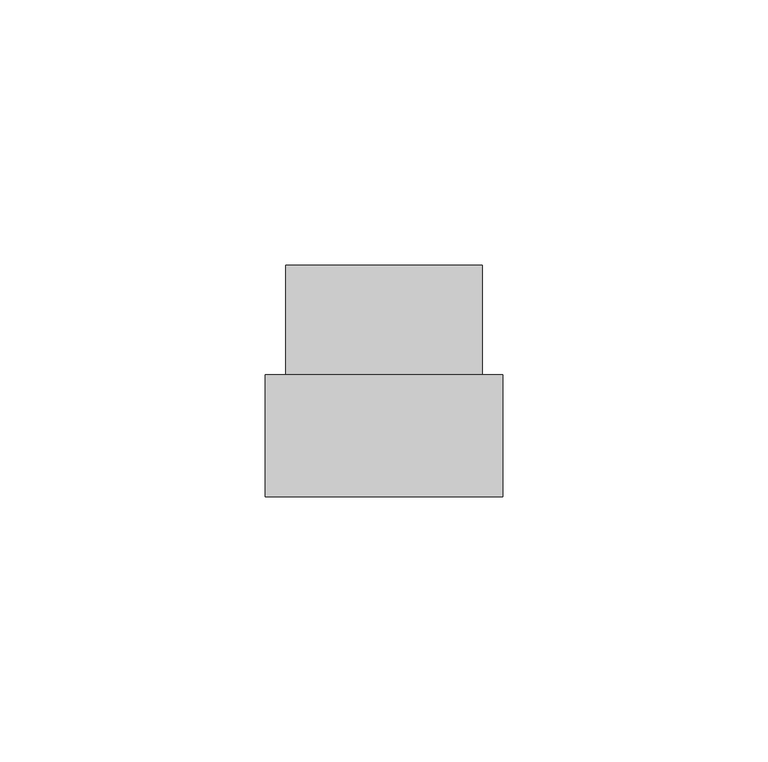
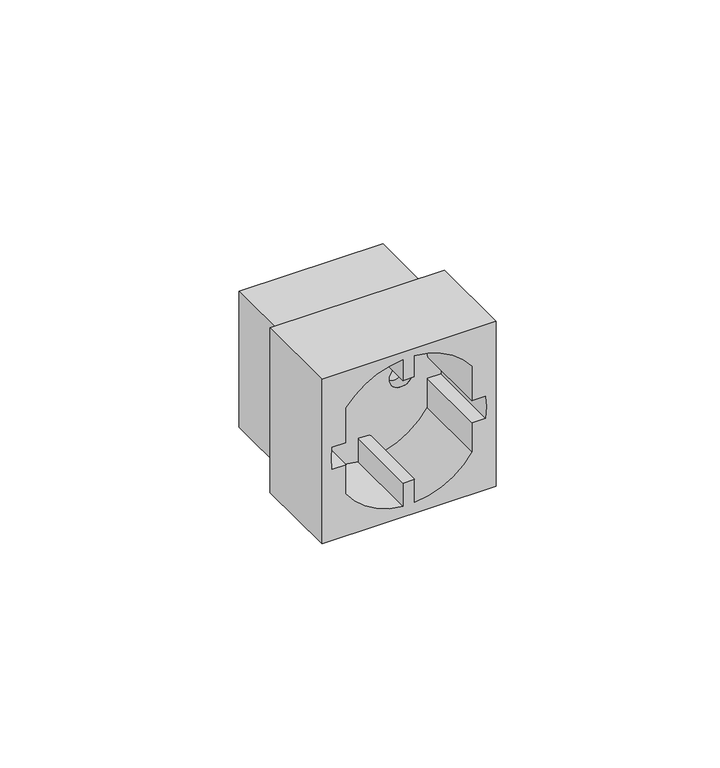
"""IFC4 building model written with IfcOpenShell, lengths in millimetres: proxy geometry."""

from ifc_helpers import new_model, si_unit, frame, origin, place, context, project, spatial, polyline, circle_curve, source, transform, mapped, element, save
from ifc_brep_helpers import plane_surface, revolved_surface, advanced_brep


def electrical_fixtures_08d7c8de(model_context):
    return source(origin(), model_context, "Body", "AdvancedBrep", [
        advanced_brep(
        [(22.45, -43.7, -22.45), (22.45, -43.7, 22.45), (-22.45, -43.7, 22.45), (-22.45, -43.7, -22.45), (-19.7737199, -43.7, 3.0), (-16.2525449, -43.7, 3.0), (-16.2525449, -43.7, 12.4056761), (-1.5019291, -43.7, 20.3909348), (-1.5019291, -43.7, 14.6935255), (1.5019291, -43.7, 14.6935255), (1.5019291, -43.7, 20.3909348), (16.2525449, -43.7, 12.4056761), (16.2525449, -43.7, 3.0), (19.7737199, -43.7, 3.0), (19.7737199, -43.7, -3.0), (16.2525449, -43.7, -3.0), (16.2525449, -43.7, -10.9056761), (1.5019291, -43.7, -19.5146918), (1.5019291, -43.7, -13.1935255), (-1.5019291, -43.7, -13.1935255), (-1.5019291, -43.7, -19.5146918), (-16.2525449, -43.7, -10.9056761), (-16.2525449, -43.7, -3.0), (-19.7737199, -43.7, -3.0), (22.45, -20.7, -22.45), (-22.45, -20.7, -22.45), (-22.45, -20.7, 22.45), (22.45, -20.7, 22.45), (-6.5, -20.7, 0.0), (-12.5, -20.7, 0.0), (12.5, -20.7, 0.0), (6.5, -20.7, 0.0), (-19.7737199, -23.7, 3.0), (-19.7737199, -23.7, -3.0), (-16.2525449, -23.7, -3.0), (-16.2525449, -23.7, -10.9056761), (-1.5019291, -23.7, -19.5146918), (-1.5019291, -23.7, -13.1935255), (1.5019291, -23.7, -13.1935255), (1.5019291, -23.7, -19.5146918), (16.2525449, -23.7, -10.9056761), (16.2525449, -23.7, -3.0), (19.7737199, -23.7, -3.0), (19.7737199, -23.7, 3.0), (16.2525449, -23.7, 3.0), (16.2525449, -23.7, 12.4056761), (1.5019291, -23.7, 20.3909348), (1.5019291, -23.7, 14.6935255), (-1.5019291, -23.7, 14.6935255), (-1.5019291, -23.7, 20.3909348), (-16.2525449, -23.7, 12.4056761), (-16.2525449, -23.7, 3.0), (-12.5, -23.7, 0.0), (-6.5, -23.7, 0.0), (6.5, -23.7, 0.0), (12.5, -23.7, 0.0)],
        [
            (0, 1),
            (1, 2),
            (2, 3),
            (3, 0),
            (4, 5),
            (5, 6),
            (6, 7, circle_curve(frame((0.0, -43.7, 0.0), z_axis=(0.0, 1.0, 0.0), x_axis=(1.0, 0.0, 0.0)), 20.4461736)),
            (7, 8),
            (8, 9),
            (9, 10),
            (10, 11, circle_curve(frame((0.0, -43.7, 0.0), z_axis=(0.0, 1.0, 0.0), x_axis=(1.0, 0.0, 0.0)), 20.4461736)),
            (11, 12),
            (12, 13),
            (13, 14, circle_curve(frame((0.0, -43.7, 0.0), z_axis=(0.0, 1.0, 0.0), x_axis=(1.0, 0.0, 0.0)), 20.0)),
            (14, 15),
            (15, 16),
            (16, 17, circle_curve(frame((0.0, -43.7, 0.0), z_axis=(0.0, 1.0, 0.0), x_axis=(1.0, 0.0, 0.0)), 19.5724037)),
            (17, 18),
            (18, 19),
            (19, 20),
            (20, 21, circle_curve(frame((0.0, -43.7, 0.0), z_axis=(0.0, 1.0, 0.0), x_axis=(1.0, 0.0, 0.0)), 19.5724037)),
            (21, 22),
            (22, 23),
            (23, 4, circle_curve(frame((0.0, -43.7, 0.0), z_axis=(0.0, 1.0, 0.0), x_axis=(1.0, 0.0, 0.0)), 20.0)),
            (24, 25),
            (25, 26),
            (26, 27),
            (27, 24),
            (28, 29, circle_curve(frame((-9.5, -20.7, 0.0), z_axis=(0.0, -1.0, 0.0), x_axis=(1.0, 0.0, 0.0)), 3.0)),
            (29, 28, circle_curve(frame((-9.5, -20.7, 0.0), z_axis=(0.0, -1.0, 0.0), x_axis=(1.0, 0.0, 0.0)), 3.0)),
            (30, 31, circle_curve(frame((9.5, -20.7, 0.0), z_axis=(0.0, -1.0, 0.0), x_axis=(1.0, 0.0, 0.0)), 3.0)),
            (31, 30, circle_curve(frame((9.5, -20.7, 0.0), z_axis=(0.0, -1.0, 0.0), x_axis=(1.0, 0.0, 0.0)), 3.0)),
            (3, 25),
            (24, 0),
            (2, 26),
            (1, 27),
            (32, 33, circle_curve(frame((0.0, -23.7, 0.0), z_axis=(0.0, -1.0, 0.0), x_axis=(1.0, 0.0, 0.0)), 20.0)),
            (33, 34),
            (34, 35),
            (35, 36, circle_curve(frame((0.0, -23.7, 0.0), z_axis=(0.0, -1.0, 0.0), x_axis=(1.0, 0.0, 0.0)), 19.5724037)),
            (36, 37),
            (37, 38),
            (38, 39),
            (39, 40, circle_curve(frame((0.0, -23.7, 0.0), z_axis=(0.0, -1.0, 0.0), x_axis=(1.0, 0.0, 0.0)), 19.5724037)),
            (40, 41),
            (41, 42),
            (42, 43, circle_curve(frame((0.0, -23.7, 0.0), z_axis=(0.0, -1.0, 0.0), x_axis=(1.0, 0.0, 0.0)), 20.0)),
            (43, 44),
            (44, 45),
            (45, 46, circle_curve(frame((0.0, -23.7, 0.0), z_axis=(0.0, -1.0, 0.0), x_axis=(1.0, 0.0, 0.0)), 20.4461736)),
            (46, 47),
            (47, 48),
            (48, 49),
            (49, 50, circle_curve(frame((0.0, -23.7, 0.0), z_axis=(0.0, -1.0, 0.0), x_axis=(1.0, 0.0, 0.0)), 20.4461736)),
            (50, 51),
            (51, 32),
            (52, 53, circle_curve(frame((-9.5, -23.7, 0.0), z_axis=(0.0, 1.0, 0.0), x_axis=(1.0, 0.0, 0.0)), 3.0)),
            (53, 52, circle_curve(frame((-9.5, -23.7, 0.0), z_axis=(0.0, 1.0, 0.0), x_axis=(1.0, 0.0, 0.0)), 3.0)),
            (54, 55, circle_curve(frame((9.5, -23.7, 0.0), z_axis=(0.0, 1.0, 0.0), x_axis=(1.0, 0.0, 0.0)), 3.0)),
            (55, 54, circle_curve(frame((9.5, -23.7, 0.0), z_axis=(0.0, 1.0, 0.0), x_axis=(1.0, 0.0, 0.0)), 3.0)),
            (51, 5),
            (4, 32),
            (50, 6),
            (49, 7),
            (48, 8),
            (47, 9),
            (46, 10),
            (45, 11),
            (44, 12),
            (43, 13),
            (42, 14),
            (41, 15),
            (40, 16),
            (39, 17),
            (38, 18),
            (37, 19),
            (36, 20),
            (35, 21),
            (34, 22),
            (33, 23),
            (52, 29),
            (28, 53),
            (54, 31),
            (30, 55),
        ],
        [
            plane_surface(frame((-26.0, -43.7, -22.45), z_axis=(0.0, -1.0, 0.0), x_axis=(1.0, 0.0, 0.0))),
            plane_surface(frame((-26.0, -20.7, -22.45), z_axis=(0.0, 1.0, 0.0), x_axis=(-1.0, 0.0, 0.0))),
            plane_surface(frame((22.45, -20.7, -22.45), z_axis=(0.0, 0.0, -1.0), x_axis=(0.0, -1.0, 0.0))),
            plane_surface(frame((-22.45, -20.7, -22.45), z_axis=(-1.0, 0.0, 0.0), x_axis=(0.0, -1.0, 0.0))),
            plane_surface(frame((-22.45, -20.7, 22.45), z_axis=(0.0, 0.0, 1.0), x_axis=(0.0, -1.0, 0.0))),
            plane_surface(frame((22.45, -20.7, 22.45), z_axis=(1.0, 0.0, 0.0), x_axis=(0.0, -1.0, 0.0))),
            plane_surface(frame((-19.7737199, -23.7, 3.0), z_axis=(0.0, -1.0, 0.0), x_axis=(1.0, 0.0, 0.0))),
            plane_surface(frame((-19.7737199, -23.7, 3.0), z_axis=(0.0, 0.0, -1.0), x_axis=(0.0, -1.0, 0.0))),
            plane_surface(frame((-16.2525449, -23.7, 3.0), z_axis=(1.0, 0.0, 0.0), x_axis=(0.0, -1.0, 0.0))),
            revolved_surface(polyline([(20.4461736, -23.7, 0.0), (20.4461736, -43.7, 0.0)]), (0.0, -43.7, 0.0), (0.0, 1.0, 0.0)),
            plane_surface(frame((-1.5019291, -23.7, 20.3909348), z_axis=(-1.0, 0.0, 0.0), x_axis=(0.0, -1.0, 0.0))),
            plane_surface(frame((-1.5019291, -23.7, 14.6935255), z_axis=(0.0, 0.0, -1.0), x_axis=(0.0, -1.0, 0.0))),
            plane_surface(frame((1.5019291, -23.7, 14.6935255), z_axis=(1.0, 0.0, 0.0), x_axis=(0.0, -1.0, 0.0))),
            plane_surface(frame((16.2525449, -23.7, 12.4056761), z_axis=(-1.0, 0.0, 0.0), x_axis=(0.0, -1.0, 0.0))),
            plane_surface(frame((16.2525449, -23.7, 3.0), z_axis=(0.0, 0.0, -1.0), x_axis=(0.0, -1.0, 0.0))),
            revolved_surface(polyline([(20.0, -23.7, 0.0), (20.0, -43.7, 0.0)]), (0.0, -43.7, 0.0), (0.0, 1.0, 0.0)),
            plane_surface(frame((19.7737199, -23.7, -3.0), z_axis=(0.0, 0.0, 1.0), x_axis=(0.0, -1.0, 0.0))),
            plane_surface(frame((16.2525449, -23.7, -3.0), z_axis=(-1.0, 0.0, 0.0), x_axis=(0.0, -1.0, 0.0))),
            revolved_surface(polyline([(19.5724037, -23.7, 0.0), (19.5724037, -43.7, 0.0)]), (0.0, -43.7, 0.0), (0.0, 1.0, 0.0)),
            plane_surface(frame((1.5019291, -23.7, -19.5146918), z_axis=(1.0, 0.0, 0.0), x_axis=(0.0, -1.0, 0.0))),
            plane_surface(frame((1.5019291, -23.7, -13.1935255), z_axis=(0.0, 0.0, 1.0), x_axis=(0.0, -1.0, 0.0))),
            plane_surface(frame((-1.5019291, -23.7, -13.1935255), z_axis=(-1.0, 0.0, 0.0), x_axis=(0.0, -1.0, 0.0))),
            plane_surface(frame((-16.2525449, -23.7, -10.9056761), z_axis=(1.0, 0.0, 0.0), x_axis=(0.0, -1.0, 0.0))),
            plane_surface(frame((-16.2525449, -23.7, -3.0), z_axis=(0.0, 0.0, 1.0), x_axis=(0.0, -1.0, 0.0))),
            revolved_surface(polyline([(-6.5, -20.7, 0.0), (-6.5, -23.7, 0.0)]), (-9.5, -23.7, 0.0), (0.0, 1.0, 0.0)),
            revolved_surface(polyline([(12.5, -20.7, 0.0), (12.5, -23.7, 0.0)]), (9.5, -34.7, 0.0), (0.0, 1.0, 0.0)),
        ],
        [
            (0, [[1, 2, 3, 4], [5, 6, 7, 8, 9, 10, 11, 12, 13, 14, 15, 16, 17, 18, 19, 20, 21, 22, 23, 24]]),
            (1, [[25, 26, 27, 28], [29, 30], [31, 32]]),
            (2, [[-4, 33, -25, 34]]),
            (3, [[-3, 35, -26, -33]]),
            (4, [[-2, 36, -27, -35]]),
            (5, [[-1, -34, -28, -36]]),
            (6, [[37, 38, 39, 40, 41, 42, 43, 44, 45, 46, 47, 48, 49, 50, 51, 52, 53, 54, 55, 56], [57, 58], [59, 60]]),
            (7, [[-56, 61, -5, 62]]),
            (8, [[-55, 63, -6, -61]]),
            (9, [[-54, 64, -7, -63]]),
            (10, [[-53, 65, -8, -64]]),
            (11, [[-52, 66, -9, -65]]),
            (12, [[-51, 67, -10, -66]]),
            (9, [[-50, 68, -11, -67]]),
            (13, [[-49, 69, -12, -68]]),
            (14, [[-48, 70, -13, -69]]),
            (15, [[-47, 71, -14, -70]]),
            (16, [[-46, 72, -15, -71]]),
            (17, [[-45, 73, -16, -72]]),
            (18, [[-44, 74, -17, -73]]),
            (19, [[-43, 75, -18, -74]]),
            (20, [[-42, 76, -19, -75]]),
            (21, [[-41, 77, -20, -76]]),
            (18, [[-40, 78, -21, -77]]),
            (22, [[-39, 79, -22, -78]]),
            (23, [[-38, 80, -23, -79]]),
            (15, [[-37, -62, -24, -80]]),
            (24, [[81, -29, 82, -57]]),
            (24, [[-81, -58, -82, -30]]),
            (25, [[83, -31, 84, -59]]),
            (25, [[-83, -60, -84, -32]]),
        ],
    ),
        advanced_brep(
        [(-12.5, -3.7, 0.0), (-6.5, -3.7, 0.0), (6.5, -3.7, 0.0), (12.5, -3.7, 0.0), (-6.5, -20.7, 0.0), (-12.5, -20.7, 0.0), (12.5, -20.7, 0.0), (6.5, -20.7, 0.0), (18.5, 0.0, -18.5), (-18.5, 0.0, -18.5), (-18.5, 0.0, 18.5), (18.5, 0.0, 18.5), (18.5, -20.7, -18.5), (18.5, -20.7, 18.5), (-18.5, -20.7, 18.5), (-18.5, -20.7, -18.5)],
        [
            (0, 1, circle_curve(frame((-9.5, -3.7, 0.0), z_axis=(0.0, -1.0, 0.0), x_axis=(1.0, 0.0, 0.0)), 3.0)),
            (1, 0, circle_curve(frame((-9.5, -3.7, 0.0), z_axis=(0.0, -1.0, 0.0), x_axis=(1.0, 0.0, 0.0)), 3.0)),
            (2, 3, circle_curve(frame((9.5, -3.7, 0.0), z_axis=(0.0, -1.0, 0.0), x_axis=(1.0, 0.0, 0.0)), 3.0)),
            (3, 2, circle_curve(frame((9.5, -3.7, 0.0), z_axis=(0.0, -1.0, 0.0), x_axis=(1.0, 0.0, 0.0)), 3.0)),
            (1, 4),
            (4, 5, circle_curve(frame((-9.5, -20.7, 0.0), z_axis=(0.0, -1.0, 0.0), x_axis=(1.0, 0.0, 0.0)), 3.0)),
            (5, 0),
            (5, 4, circle_curve(frame((-9.5, -20.7, 0.0), z_axis=(0.0, -1.0, 0.0), x_axis=(1.0, 0.0, 0.0)), 3.0)),
            (3, 6),
            (6, 7, circle_curve(frame((9.5, -20.7, 0.0), z_axis=(0.0, -1.0, 0.0), x_axis=(1.0, 0.0, 0.0)), 3.0)),
            (7, 2),
            (7, 6, circle_curve(frame((9.5, -20.7, 0.0), z_axis=(0.0, -1.0, 0.0), x_axis=(1.0, 0.0, 0.0)), 3.0)),
            (8, 9),
            (9, 10),
            (10, 11),
            (11, 8),
            (12, 13),
            (13, 14),
            (14, 15),
            (15, 12),
            (8, 12),
            (15, 9),
            (14, 10),
            (13, 11),
        ],
        [
            plane_surface(frame((-6.5, -3.7, 0.0), z_axis=(0.0, -1.0, 0.0), x_axis=(0.0, 0.0, -1.0))),
            revolved_surface(polyline([(-6.5, -3.6999999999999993, 0.0), (-6.5, -20.7, 0.0)]), (-9.5, -23.7, 0.0), (0.0, 1.0, 0.0)),
            revolved_surface(polyline([(12.5, -3.6999999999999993, 0.0), (12.5, -20.7, 0.0)]), (9.5, -34.7, 0.0), (0.0, 1.0, 0.0)),
            plane_surface(frame((-18.5, 0.0, -18.5), z_axis=(0.0, 1.0, 0.0), x_axis=(-1.0, 0.0, 0.0))),
            plane_surface(frame((-18.5, -20.7, -18.5), z_axis=(0.0, -1.0, 0.0), x_axis=(1.0, 0.0, 0.0))),
            plane_surface(frame((18.5, 0.0, -18.5), z_axis=(0.0, 0.0, -1.0), x_axis=(0.0, -1.0, 0.0))),
            plane_surface(frame((-18.5, 0.0, -18.5), z_axis=(-1.0, 0.0, 0.0), x_axis=(0.0, -1.0, 0.0))),
            plane_surface(frame((-18.5, 0.0, 18.5), z_axis=(0.0, 0.0, 1.0), x_axis=(0.0, -1.0, 0.0))),
            plane_surface(frame((18.5, 0.0, 18.5), z_axis=(1.0, 0.0, 0.0), x_axis=(0.0, -1.0, 0.0))),
        ],
        [
            (0, [[1, 2]]),
            (0, [[3, 4]]),
            (1, [[-2, 5, 6, 7]]),
            (1, [[-1, -7, 8, -5]]),
            (2, [[-4, 9, 10, 11]]),
            (2, [[-3, -11, 12, -9]]),
            (3, [[13, 14, 15, 16]]),
            (4, [[17, 18, 19, 20], [-6, -8], [-10, -12]]),
            (5, [[-13, 21, -20, 22]]),
            (6, [[-14, -22, -19, 23]]),
            (7, [[-15, -23, -18, 24]]),
            (8, [[-16, -24, -17, -21]]),
        ],
    ),
    ])


if __name__ == "__main__":
    model = new_model("IFC4")
    model_context = context("Model", 3, world=origin())
    ifc_project = project(units=[si_unit("LENGTHUNIT", "METRE", prefix="MILLI")], contexts=[model_context])
    site = spatial("IfcSite", under=ifc_project)
    building = spatial("IfcBuilding", under=site)
    placement = place(None, origin())
    electrical_fixtures_shape = electrical_fixtures_08d7c8de(model_context)
    element("IfcBuildingElementProxy", 1, Name="Electrical Fixtures", at=placement, inside=building, context=model_context, shape_type="MappedRepresentation", body=[
        mapped(electrical_fixtures_shape, transform((0.0, 0.0, 0.0), x_axis=(1.0, 0.0, 0.0), y_axis=(0.0, 1.0, 0.0), z_axis=(0.0, 0.0, 1.0))),
    ])
    save(model, "model.ifc")
